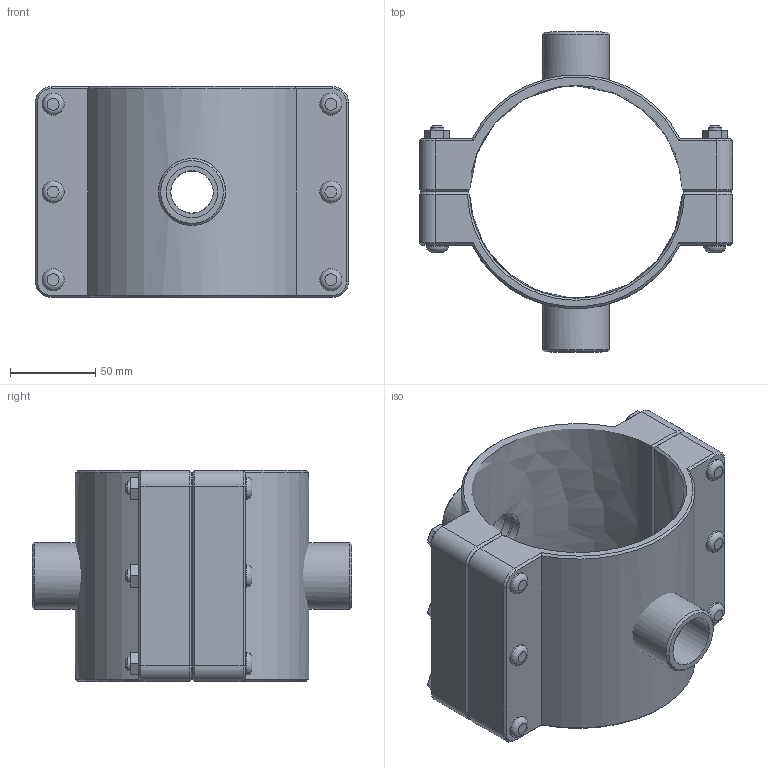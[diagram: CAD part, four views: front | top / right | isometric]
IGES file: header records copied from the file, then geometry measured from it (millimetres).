
Global section: file name: 161760125010_161860125010.ipt; native system: Autodesk Inventor 2015; preprocessor: unknown; author: KIM; date: 20170618.093749; units: millimetre
Bounding box: 184 x 188 x 124 mm (x, y, z)
Volume: 742230.5 mm3; surface area: 153913.9 mm2
Topology: 3 solids, 3 shells, 179 faces, 416 edges, 265 vertices
Faces by surface type: plane 102, cylinder 30, cone 28, revolution 19
Full cylindrical faces by diameter (mm): 8 x6, 13 x12, 39.378 x2
